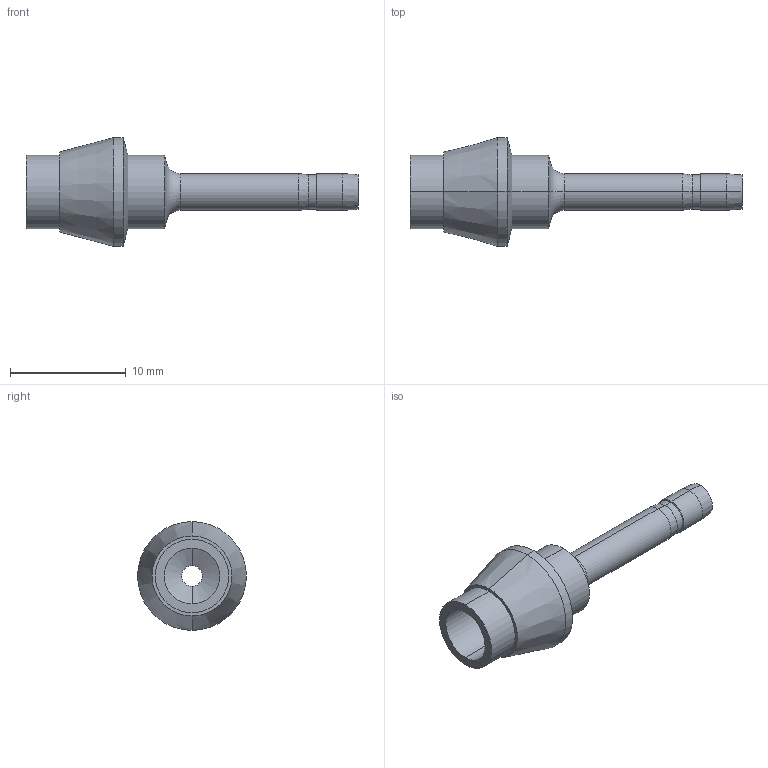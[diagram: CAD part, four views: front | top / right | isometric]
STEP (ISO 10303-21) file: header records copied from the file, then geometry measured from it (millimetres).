
FILE_DESCRIPTION (( 'STEP AP203' ), '1' );
FILE_NAME ('DPC04-02 SS.STEP', '2009-09-08T08:33:23', ( ' ' ), ( '' ), 'SwSTEP 2.0', 'SolidWorks 2008', '' );
FILE_SCHEMA (( 'CONFIG_CONTROL_DESIGN' ));
Length unit declared in the file: millimetre
Products named in the file (1): DPC04-02 SS
Bounding box: 28.7 x 9.4 x 9.4 mm (x, y, z)
Volume: 489.5 mm3; surface area: 744.4 mm2
Topology: 1 solids, 1 shells, 35 faces, 70 edges, 38 vertices
Faces by surface type: cylinder 16, cone 14, plane 3, torus 2
Entity records: 977 total; most frequent: DIRECTION 182, CARTESIAN_POINT 144, ORIENTED_EDGE 140, AXIS2_PLACEMENT_3D 76, EDGE_CURVE 70, CIRCLE 40, EDGE_LOOP 38, VERTEX_POINT 38
